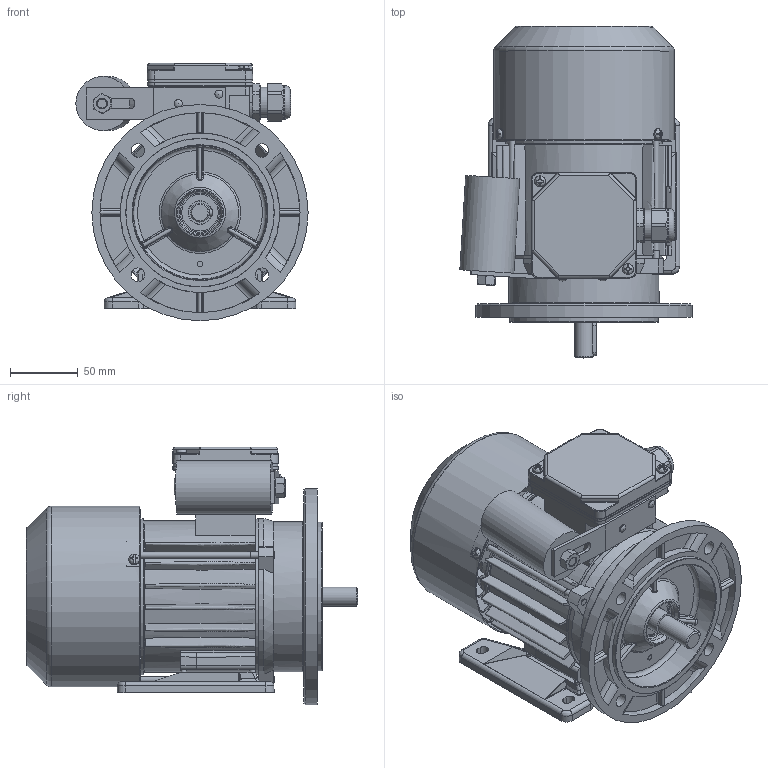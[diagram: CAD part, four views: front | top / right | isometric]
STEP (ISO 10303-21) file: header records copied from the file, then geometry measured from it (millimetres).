
FILE_DESCRIPTION( ( 'Unknown' ), '1' );
FILE_NAME( 'G:/Poczta Tk-1/STP/w.m.71/SEh71/SELh71-.B.stp', 'Unknown', ( 'K. Szlosek' ), ( 'BESEL S.A.' ), 'PSStep 17.0.49', 'Unknown', ' ' );
FILE_SCHEMA( ( 'AUTOMOTIVE_DESIGN { 1 0 10303 214 1 1 1 1 }' ) );
Length unit declared in the file: millimetre
Products named in the file (34): Assem1; K4-2820 Uszczelka nr 2 Sh71,80; Wkręt samogwintujący M4x16; K3-6469 Tarcza łożyskowa P S(E,M)h71-B,C; Wpust A5x5x25; Wkręt samogwintujący M4x8; K2-1131 Podstawa skrzynki zaciskowej jednofazowa; Nit 4x12 po skróceniu; K4-2999 Uchwyt kondensatora; nakrętka M8; K1-1194 Kadłub z zamkami Sh71-.B; Kondensator zb 11-16uF Comar; K3-3984 Przewietrznik Sh71; K1-1244 Tarcza kołnierzowa B5 w.m. 71; K4-2320 Uszczelka nr 1 Sh71,80; K3-2975 Osłona przewietrznika Sh71-.B,C; K2-0860 Pokrywka skrzynki zaciskowej; K3-4502 wał standard Sh71-B; Nitokołek A 2x6; Łożysko 6203; Śruba ściągająca E_M5x110; Tabliczka znamionowa 32x44; Dławnica M20x1,5; K4-0898 Tulejka uszczelniająca; K1-0448 Łapa Sh71-.. 
Assembly tree (50 placements, depth 2):
  Assem1
    K4-2820 Uszczelka nr 2 Sh71,80
    Wkręt samogwintujący M4x16  x2
    K3-6469 Tarcza łożyskowa P S(E,M)h71-B,C
    Wpust A5x5x25
    Wkręt samogwintujący M4x8  x3
    K2-1131 Podstawa skrzynki zaciskowej jednofazowa
    Nit 4x12 po skróceniu  x2
    K4-2999 Uchwyt kondensatora
    nakrętka M8
    K1-1194 Kadłub z zamkami Sh71-.B
    Kondensator zb 11-16uF Comar
    K3-3984 Przewietrznik Sh71
    K1-1244 Tarcza kołnierzowa B5 w.m. 71
    K4-2320 Uszczelka nr 1 Sh71,80
    K3-2975 Osłona przewietrznika Sh71-.B,C
    K2-0860 Pokrywka skrzynki zaciskowej
    K3-4502 wał standard Sh71-B
    Nitokołek A 2x6  x2
    Łożysko 6203  x2
    Łożysko 6203  x2
    Łożysko 6203  x2
    Łożysko 6203  x2
    Łożysko 6203  x2
    Łożysko 6203  x2
    Łożysko 6203  x2
    Łożysko 6203  x2
    Łożysko 6203  x2
    Łożysko 6203  x2
    Śruba ściągająca E_M5x110  x3
    Tabliczka znamionowa 32x44
    Dławnica M20x1,5
    K4-0898 Tulejka uszczelniająca
    K1-0448 Łapa Sh71-.. 
Bounding box: 171.81 x 245.5 x 190.5 mm (x, y, z)
Volume: 853949.7 mm3; surface area: 488640.3 mm2
Topology: 50 solids, 66 shells, 2612 faces, 7037 edges, 4498 vertices
Faces by surface type: plane 1064, cylinder 765, bspline 389, torus 177, cone 173, sphere 44
Full cylindrical faces by diameter (mm): 2 x2, 2.4 x2, 3 x1, 3.7 x7, 3.8 x4, 4 x8, 4.2 x3, 4.3 x2, 4.5 x3, 4.6 x3, 4.8 x4, 5 x7, 5.5 x3, 5.8 x4, 6 x2, 6.5 x1, 6.647 x1, 7 x1, 8 x10, 10 x6, 14 x1, 15.9 x1, 16.1 x1, 16.5 x1, 17 x4, 17.4 x2, 18.376 x1, 18.38 x1, 20 x1, 22 x2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
Entity records: 151469 total; most frequent: CARTESIAN_POINT 73628, ORIENTED_EDGE 12508, DIRECTION 11229, EDGE_CURVE 6254, AXIS2_PLACEMENT_3D 4275, VERTEX_POINT 4156, EDGE_LOOP 2908, LINE 2679
